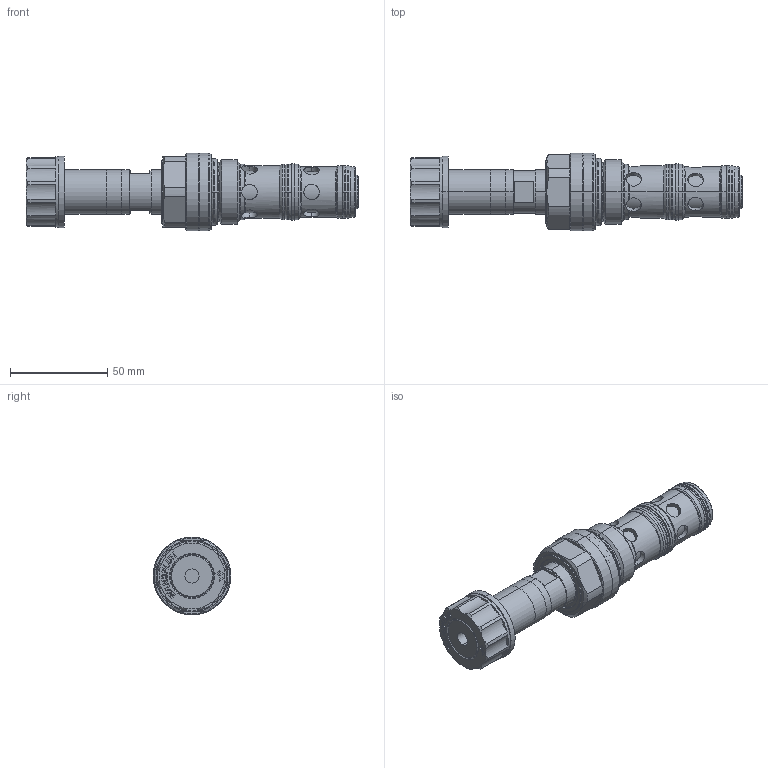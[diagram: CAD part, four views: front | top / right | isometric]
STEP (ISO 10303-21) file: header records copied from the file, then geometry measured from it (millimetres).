
FILE_DESCRIPTION (( 'STEP AP214' ), '1' );
FILE_NAME ('QDPPU16-X5.STEP', '2017-03-24T13:02:30', ( '' ), ( '' ), 'SwSTEP 2.0', 'SolidWorks 2016', '' );
FILE_SCHEMA (( 'AUTOMOTIVE_DESIGN' ));
Length unit declared in the file: millimetre
Products named in the file (1): QDPPU16-X5
Bounding box: 170.65 x 40 x 40 mm (x, y, z)
Volume: 111365.1 mm3; surface area: 28520 mm2
Topology: 4 solids, 8 shells, 494 faces, 1186 edges, 749 vertices
Faces by surface type: plane 177, cylinder 154, cone 70, torus 53, bspline 40
Entity records: 22442 total; most frequent: CARTESIAN_POINT 5726, DIRECTION 2396, ORIENTED_EDGE 2372, EDGE_CURVE 1186, AXIS2_PLACEMENT_3D 935, VERTEX_POINT 749, EDGE_LOOP 547, VECTOR 526
